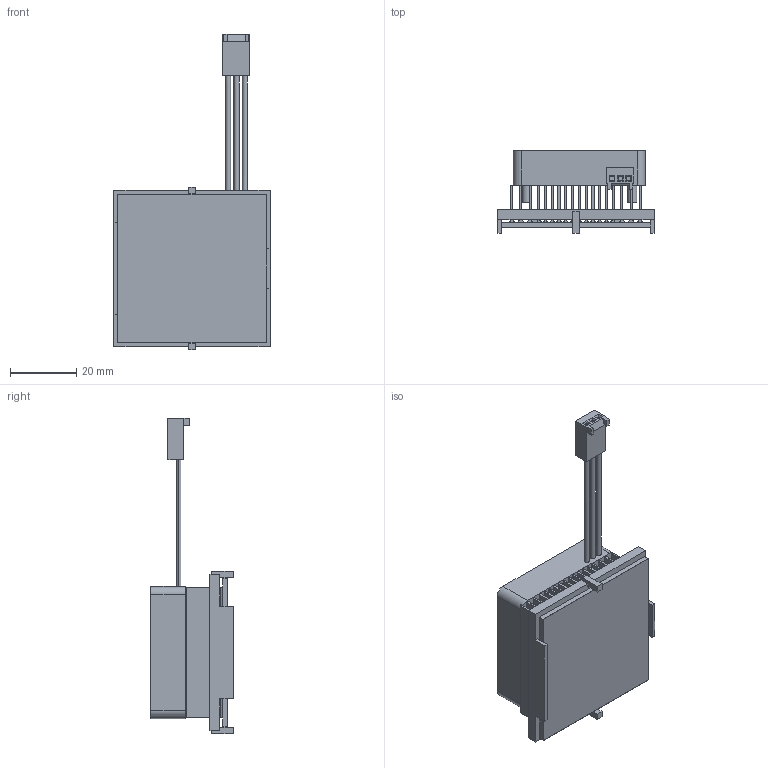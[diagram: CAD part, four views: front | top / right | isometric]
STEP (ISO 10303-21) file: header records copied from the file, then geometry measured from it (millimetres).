
FILE_DESCRIPTION (( 'STEP AP214' ), '1' );
FILE_NAME ('FA45+K28B.STEP', '2023-03-07T17:36:29', ( '' ), ( '' ), 'SwSTEP 2.0', 'SolidWorks 2020', '' );
FILE_SCHEMA (( 'AUTOMOTIVE_DESIGN' ));
Length unit declared in the file: millimetre
Products named in the file (1): FA45+K28B
Bounding box: 47.3 x 24.98 x 95.65 mm (x, y, z)
Volume: 19309.1 mm3; surface area: 36009.6 mm2
Topology: 8 solids, 8 shells, 453 faces, 1235 edges, 800 vertices
Faces by surface type: plane 342, cylinder 89, bspline 14, cone 8
Entity records: 19467 total; most frequent: CARTESIAN_POINT 2929, ORIENTED_EDGE 2470, DIRECTION 2241, EDGE_CURVE 1235, LINE 953, VECTOR 953, VERTEX_POINT 800, AXIS2_PLACEMENT_3D 644
